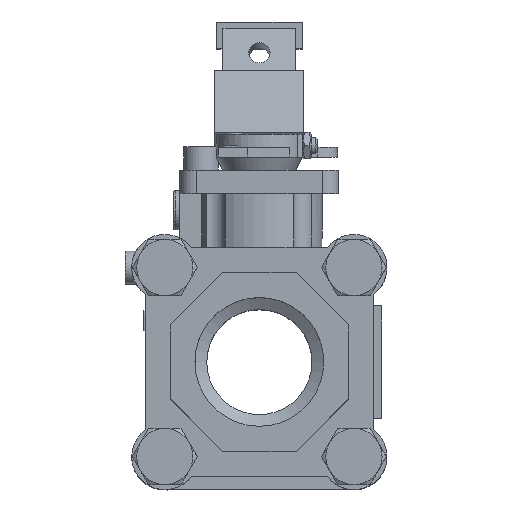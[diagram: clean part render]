
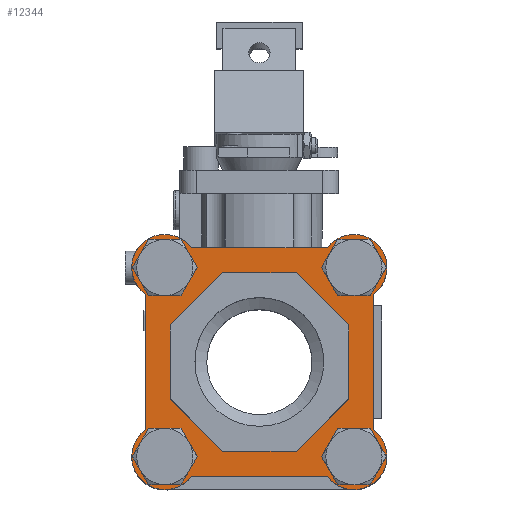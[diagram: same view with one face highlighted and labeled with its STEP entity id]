
A CAD part, top view. The second image highlights one B-rep face of the part: STEP entity #12344.
In plain terms, the highlighted planar face has unit normal (0, 0, 1).
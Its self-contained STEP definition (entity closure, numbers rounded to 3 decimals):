
#416=FACE_BOUND('',#2450,.T.);
#417=FACE_BOUND('',#2451,.T.);
#418=FACE_BOUND('',#2452,.T.);
#419=FACE_BOUND('',#2453,.T.);
#420=FACE_BOUND('',#2454,.T.);
#841=PLANE('',#13457);
#1703=FACE_OUTER_BOUND('',#2449,.T.);
#2449=EDGE_LOOP('',(#11359,#11360,#11361,#11362,#11363,#11364,#11365,#11366));
#2450=EDGE_LOOP('',(#11367,#11368));
#2451=EDGE_LOOP('',(#11369,#11370));
#2452=EDGE_LOOP('',(#11371,#11372));
#2453=EDGE_LOOP('',(#11373,#11374));
#2454=EDGE_LOOP('',(#11375,#11376,#11377,#11378,#11379,#11380,#11381,#11382));
#2673=CIRCLE('',#12791,7.8);
#2674=CIRCLE('',#12792,7.8);
#2698=CIRCLE('',#12850,7.8);
#2699=CIRCLE('',#12851,7.8);
#2723=CIRCLE('',#12909,7.8);
#2724=CIRCLE('',#12910,7.8);
#2924=CIRCLE('',#13381,7.8);
#2925=CIRCLE('',#13382,7.8);
#2933=CIRCLE('',#13406,10.);
#2937=CIRCLE('',#13413,10.);
#2941=CIRCLE('',#13421,10.);
#2946=CIRCLE('',#13432,10.);
#3951=LINE('',#21165,#5013);
#3957=LINE('',#21185,#5019);
#3962=LINE('',#21200,#5024);
#3966=LINE('',#21211,#5028);
#3968=LINE('',#21217,#5030);
#3972=LINE('',#21225,#5034);
#3975=LINE('',#21231,#5037);
#3978=LINE('',#21237,#5040);
#3981=LINE('',#21243,#5043);
#3984=LINE('',#21249,#5046);
#3987=LINE('',#21255,#5049);
#3990=LINE('',#21260,#5052);
#5013=VECTOR('',#16526,10.);
#5019=VECTOR('',#16548,10.);
#5024=VECTOR('',#16567,10.);
#5028=VECTOR('',#16579,10.);
#5030=VECTOR('',#16585,10.);
#5034=VECTOR('',#16591,10.);
#5037=VECTOR('',#16596,10.);
#5040=VECTOR('',#16601,10.);
#5043=VECTOR('',#16606,10.);
#5046=VECTOR('',#16611,10.);
#5049=VECTOR('',#16616,10.);
#5052=VECTOR('',#16621,10.);
#5595=VERTEX_POINT('',#18888);
#5596=VERTEX_POINT('',#18889);
#5645=VERTEX_POINT('',#19101);
#5646=VERTEX_POINT('',#19102);
#5695=VERTEX_POINT('',#19314);
#5696=VERTEX_POINT('',#19315);
#6134=VERTEX_POINT('',#21038);
#6135=VERTEX_POINT('',#21039);
#6155=VERTEX_POINT('',#21137);
#6156=VERTEX_POINT('',#21138);
#6162=VERTEX_POINT('',#21156);
#6163=VERTEX_POINT('',#21157);
#6168=VERTEX_POINT('',#21176);
#6169=VERTEX_POINT('',#21177);
#6174=VERTEX_POINT('',#21199);
#6176=VERTEX_POINT('',#21205);
#6178=VERTEX_POINT('',#21215);
#6179=VERTEX_POINT('',#21216);
#6182=VERTEX_POINT('',#21224);
#6184=VERTEX_POINT('',#21230);
#6186=VERTEX_POINT('',#21236);
#6188=VERTEX_POINT('',#21242);
#6190=VERTEX_POINT('',#21248);
#6192=VERTEX_POINT('',#21254);
#6956=EDGE_CURVE('',#5595,#5596,#2673,.T.);
#6957=EDGE_CURVE('',#5596,#5595,#2674,.T.);
#7037=EDGE_CURVE('',#5645,#5646,#2698,.T.);
#7038=EDGE_CURVE('',#5646,#5645,#2699,.T.);
#7118=EDGE_CURVE('',#5695,#5696,#2723,.T.);
#7119=EDGE_CURVE('',#5696,#5695,#2724,.T.);
#7832=EDGE_CURVE('',#6134,#6135,#2924,.T.);
#7833=EDGE_CURVE('',#6135,#6134,#2925,.T.);
#7870=EDGE_CURVE('',#6155,#6156,#2933,.T.);
#7879=EDGE_CURVE('',#6162,#6163,#2937,.T.);
#7883=EDGE_CURVE('',#6156,#6162,#3951,.T.);
#7889=EDGE_CURVE('',#6168,#6169,#2941,.T.);
#7893=EDGE_CURVE('',#6163,#6168,#3957,.T.);
#7901=EDGE_CURVE('',#6174,#6155,#3962,.T.);
#7904=EDGE_CURVE('',#6176,#6174,#2946,.T.);
#7907=EDGE_CURVE('',#6169,#6176,#3966,.T.);
#7909=EDGE_CURVE('',#6178,#6179,#3968,.T.);
#7913=EDGE_CURVE('',#6182,#6178,#3972,.T.);
#7916=EDGE_CURVE('',#6184,#6182,#3975,.T.);
#7919=EDGE_CURVE('',#6186,#6184,#3978,.T.);
#7922=EDGE_CURVE('',#6179,#6188,#3981,.T.);
#7925=EDGE_CURVE('',#6188,#6190,#3984,.T.);
#7928=EDGE_CURVE('',#6190,#6192,#3987,.T.);
#7931=EDGE_CURVE('',#6192,#6186,#3990,.T.);
#11359=ORIENTED_EDGE('',*,*,#7901,.F.);
#11360=ORIENTED_EDGE('',*,*,#7904,.F.);
#11361=ORIENTED_EDGE('',*,*,#7907,.F.);
#11362=ORIENTED_EDGE('',*,*,#7889,.F.);
#11363=ORIENTED_EDGE('',*,*,#7893,.F.);
#11364=ORIENTED_EDGE('',*,*,#7879,.F.);
#11365=ORIENTED_EDGE('',*,*,#7883,.F.);
#11366=ORIENTED_EDGE('',*,*,#7870,.F.);
#11367=ORIENTED_EDGE('',*,*,#6956,.T.);
#11368=ORIENTED_EDGE('',*,*,#6957,.T.);
#11369=ORIENTED_EDGE('',*,*,#7037,.T.);
#11370=ORIENTED_EDGE('',*,*,#7038,.T.);
#11371=ORIENTED_EDGE('',*,*,#7118,.T.);
#11372=ORIENTED_EDGE('',*,*,#7119,.T.);
#11373=ORIENTED_EDGE('',*,*,#7832,.T.);
#11374=ORIENTED_EDGE('',*,*,#7833,.T.);
#11375=ORIENTED_EDGE('',*,*,#7919,.F.);
#11376=ORIENTED_EDGE('',*,*,#7931,.F.);
#11377=ORIENTED_EDGE('',*,*,#7928,.F.);
#11378=ORIENTED_EDGE('',*,*,#7925,.F.);
#11379=ORIENTED_EDGE('',*,*,#7922,.F.);
#11380=ORIENTED_EDGE('',*,*,#7909,.F.);
#11381=ORIENTED_EDGE('',*,*,#7913,.F.);
#11382=ORIENTED_EDGE('',*,*,#7916,.F.);
#12344=ADVANCED_FACE('',(#1703,#416,#417,#418,#419,#420),#841,.T.);
#12791=AXIS2_PLACEMENT_3D('',#18890,#14741,#14742);
#12792=AXIS2_PLACEMENT_3D('',#18891,#14743,#14744);
#12850=AXIS2_PLACEMENT_3D('',#19103,#14891,#14892);
#12851=AXIS2_PLACEMENT_3D('',#19104,#14893,#14894);
#12909=AXIS2_PLACEMENT_3D('',#19316,#15041,#15042);
#12910=AXIS2_PLACEMENT_3D('',#19317,#15043,#15044);
#13381=AXIS2_PLACEMENT_3D('',#21040,#16432,#16433);
#13382=AXIS2_PLACEMENT_3D('',#21041,#16434,#16435);
#13406=AXIS2_PLACEMENT_3D('',#21139,#16499,#16500);
#13413=AXIS2_PLACEMENT_3D('',#21158,#16518,#16519);
#13421=AXIS2_PLACEMENT_3D('',#21178,#16540,#16541);
#13432=AXIS2_PLACEMENT_3D('',#21206,#16572,#16573);
#13457=AXIS2_PLACEMENT_3D('',#21286,#16652,#16653);
#14741=DIRECTION('center_axis',(0.,0.,
-1.));
#14742=DIRECTION('ref_axis',(0.5,0.866,0.));
#14743=DIRECTION('center_axis',(0.,0.,
-1.));
#14744=DIRECTION('ref_axis',(0.5,0.866,0.));
#14891=DIRECTION('center_axis',(0.,0.,
-1.));
#14892=DIRECTION('ref_axis',(0.5,0.866,0.));
#14893=DIRECTION('center_axis',(0.,0.,
-1.));
#14894=DIRECTION('ref_axis',(0.5,0.866,0.));
#15041=DIRECTION('center_axis',(0.,0.,
-1.));
#15042=DIRECTION('ref_axis',(0.5,0.866,0.));
#15043=DIRECTION('center_axis',(0.,0.,
-1.));
#15044=DIRECTION('ref_axis',(0.5,0.866,0.));
#16432=DIRECTION('center_axis',(0.,0.,
-1.));
#16433=DIRECTION('ref_axis',(0.5,0.866,0.));
#16434=DIRECTION('center_axis',(0.,0.,
-1.));
#16435=DIRECTION('ref_axis',(0.5,0.866,0.));
#16499=DIRECTION('center_axis',(0.,0.,
-1.));
#16500=DIRECTION('ref_axis',(-0.59,0.807,0.));
#16518=DIRECTION('center_axis',(0.,0.,
-1.));
#16519=DIRECTION('ref_axis',(0.807,0.59,0.));
#16526=DIRECTION('',(0.,-1.,0.));
#16540=DIRECTION('center_axis',(0.,0.,
-1.));
#16541=DIRECTION('ref_axis',(0.59,-0.807,0.));
#16548=DIRECTION('',(-1.,0.,0.));
#16567=DIRECTION('',(1.,0.,0.));
#16572=DIRECTION('center_axis',(0.,0.,
-1.));
#16573=DIRECTION('ref_axis',(-0.807,-0.59,0.));
#16579=DIRECTION('',(0.,1.,0.));
#16585=DIRECTION('',(-0.707,-0.707,0.));
#16591=DIRECTION('',(-1.,0.,0.));
#16596=DIRECTION('',(-0.707,0.707,0.));
#16601=DIRECTION('',(0.,1.,0.));
#16606=DIRECTION('',(0.,-1.,0.));
#16611=DIRECTION('',(0.707,-0.707,0.));
#16616=DIRECTION('',(1.,0.,0.));
#16621=DIRECTION('',(0.707,0.707,0.));
#16652=DIRECTION('center_axis',(0.,0.,
1.));
#16653=DIRECTION('ref_axis',(1.,0.,0.));
#18888=CARTESIAN_POINT('',(43.129,12.708,37.2));
#18889=CARTESIAN_POINT('',(35.329,-0.802,37.2));
#18890=CARTESIAN_POINT('Origin',(39.229,5.953,37.2));
#18891=CARTESIAN_POINT('Origin',(39.229,5.953,37.2));
#19101=CARTESIAN_POINT('',(-14.076,12.702,37.2));
#19102=CARTESIAN_POINT('',(-21.876,-0.808,37.2));
#19103=CARTESIAN_POINT('Origin',(-17.976,5.947,37.2));
#19104=CARTESIAN_POINT('Origin',(-17.976,5.947,37.2));
#19314=CARTESIAN_POINT('',(43.135,-44.497,37.2));
#19315=CARTESIAN_POINT('',(35.335,-58.007,37.2));
#19316=CARTESIAN_POINT('Origin',(39.235,-51.252,37.2));
#19317=CARTESIAN_POINT('Origin',(39.235,-51.252,37.2));
#21038=CARTESIAN_POINT('',(-14.07,-44.503,37.2));
#21039=CARTESIAN_POINT('',(-21.87,-58.013,37.2));
#21040=CARTESIAN_POINT('Origin',(-17.97,-51.258,37.2));
#21041=CARTESIAN_POINT('Origin',(-17.97,-51.258,37.2));
#21137=CARTESIAN_POINT('',(31.15,11.847,37.2));
#21138=CARTESIAN_POINT('',(45.124,-2.127,37.2));
#21139=CARTESIAN_POINT('Origin',(39.224,5.947,37.2));
#21156=CARTESIAN_POINT('',(45.124,-43.179,37.2));
#21157=CARTESIAN_POINT('',(31.15,-57.153,37.2));
#21158=CARTESIAN_POINT('Origin',(39.224,-51.253,37.2));
#21165=CARTESIAN_POINT('',(45.124,-2.127,37.2));
#21176=CARTESIAN_POINT('',(-9.902,-57.153,37.2));
#21177=CARTESIAN_POINT('',(-23.876,-43.179,37.2));
#21178=CARTESIAN_POINT('Origin',(-17.976,-51.253,37.2));
#21185=CARTESIAN_POINT('',(31.15,-57.153,37.2));
#21199=CARTESIAN_POINT('',(-9.902,11.847,37.2));
#21200=CARTESIAN_POINT('',(-9.902,11.847,37.2));
#21205=CARTESIAN_POINT('',(-23.876,-2.127,37.2));
#21206=CARTESIAN_POINT('Origin',(-17.976,5.947,37.2));
#21211=CARTESIAN_POINT('',(-23.876,-43.179,37.2));
#21215=CARTESIAN_POINT('',(-0.559,4.347,37.2));
#21216=CARTESIAN_POINT('',(-16.376,-11.469,37.2));
#21217=CARTESIAN_POINT('',(-12.422,-7.515,37.2));
#21224=CARTESIAN_POINT('',(21.808,4.347,37.2));
#21225=CARTESIAN_POINT('',(5.033,4.347,37.2));
#21230=CARTESIAN_POINT('',(37.624,-11.469,37.2));
#21231=CARTESIAN_POINT('',(25.762,0.393,37.2));
#21236=CARTESIAN_POINT('',(37.624,-33.837,37.2));
#21237=CARTESIAN_POINT('',(37.624,-17.061,37.2));
#21242=CARTESIAN_POINT('',(-16.376,-33.837,37.2));
#21243=CARTESIAN_POINT('',(-16.376,-28.245,37.2));
#21248=CARTESIAN_POINT('',(-0.559,-49.653,37.2));
#21249=CARTESIAN_POINT('',(-4.513,-45.699,37.2));
#21254=CARTESIAN_POINT('',(21.808,-49.653,37.2));
#21255=CARTESIAN_POINT('',(16.216,-49.653,37.2));
#21260=CARTESIAN_POINT('',(33.67,-37.791,37.2));
#21286=CARTESIAN_POINT('Origin',(10.624,6.847,37.2));
